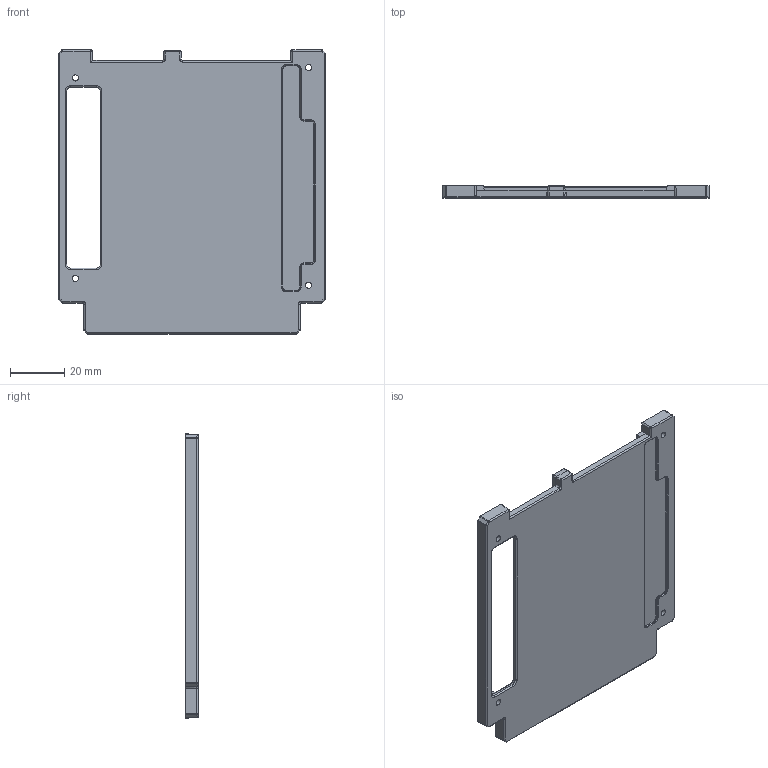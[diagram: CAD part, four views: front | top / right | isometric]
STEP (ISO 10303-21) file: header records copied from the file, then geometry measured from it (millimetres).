
FILE_DESCRIPTION((''),'2;1');
FILE_NAME('700-35078-01','2011-05-16T',('sureshkumar-v'),('Be-Atch INC. 1993'),'PRO/ENGINEER BY PARAMETRIC TECHNOLOGY CORPORATION, 2009141','PRO/ENGINEER BY PARAMETRIC TECHNOLOGY CORPORATION, 2009141','');
FILE_SCHEMA(('AUTOMOTIVE_DESIGN { 1 0 10303 214 1 1 1 1 }'));
Length unit declared in the file: inch
Products named in the file (1): 700-35078-01
Bounding box: 98.36 x 4.57 x 104.46 mm (x, y, z)
Volume: 18208 mm3; surface area: 20858.3 mm2
Topology: 1 solids, 1 shells, 586 faces, 1317 edges, 738 vertices
Faces by surface type: cylinder 227, bspline 134, plane 106, sphere 59, torus 40, cone 20
Entity records: 25246 total; most frequent: CARTESIAN_POINT 8959, ORIENTED_EDGE 2634, DIRECTION 2424, PRESENTATION_STYLE_ASSIGNMENT 1318, STYLED_ITEM 1318, CURVE_STYLE 1317, EDGE_CURVE 1317, AXIS2_PLACEMENT_3D 953
